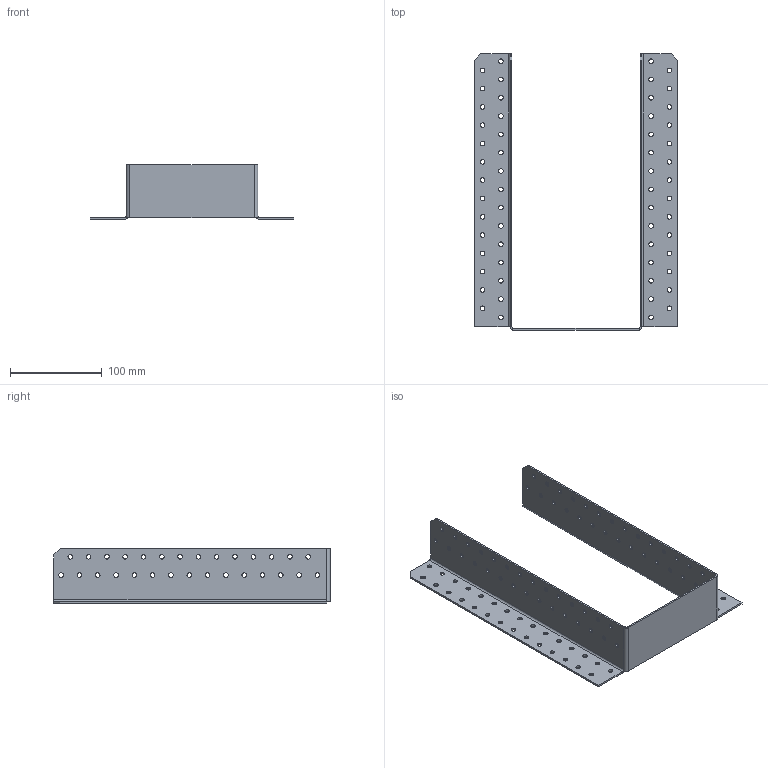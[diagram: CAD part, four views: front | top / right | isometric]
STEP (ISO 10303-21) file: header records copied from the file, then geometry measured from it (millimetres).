
FILE_DESCRIPTION (( 'STEP AP203' ), '1' );
FILE_NAME ('405112.STEP', '2021-04-17T17:00:09', ( '' ), ( '' ), 'SwSTEP 2.0', 'SolidWorks 2013', '' );
FILE_SCHEMA (( 'CONFIG_CONTROL_DESIGN' ));
Length unit declared in the file: millimetre
Products named in the file (1): 405112
Bounding box: 222 x 302 x 60 mm (x, y, z)
Volume: 128591.1 mm3; surface area: 135719.4 mm2
Topology: 1 solids, 1 shells, 276 faces, 792 edges, 518 vertices
Faces by surface type: cylinder 240, plane 36
Entity records: 9819 total; most frequent: DIRECTION 1828, CARTESIAN_POINT 1587, ORIENTED_EDGE 1584, EDGE_CURVE 792, AXIS2_PLACEMENT_3D 759, VERTEX_POINT 518, EDGE_LOOP 508, CIRCLE 482
